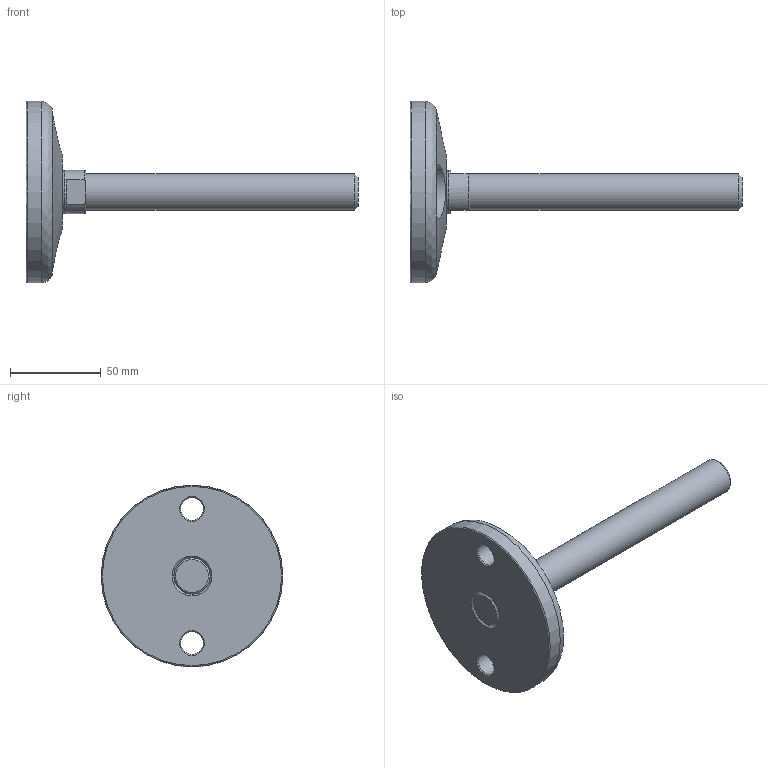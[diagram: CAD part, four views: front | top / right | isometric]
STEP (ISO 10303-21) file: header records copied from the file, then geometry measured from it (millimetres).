
FILE_DESCRIPTION(('STEP AP203'),'2;1');
FILE_NAME('12192.stp','2016-11-25T11:22:48',(''),(''),'2008.1.107','THINKDESIGN','');
FILE_SCHEMA(('CONFIG_CONTROL_DESIGN'));
Length unit declared in the file: millimetre
Bounding box: 183 x 100 x 100 mm (x, y, z)
Volume: 177639.6 mm3; surface area: 34640.3 mm2
Topology: 4 solids, 4 shells, 37 faces, 96 edges, 67 vertices
Faces by surface type: plane 14, bspline 14, cylinder 9
Full cylindrical faces by diameter (mm): 12.5 x2, 20 x3, 24 x1, 100 x1
Entity records: 2856 total; most frequent: CARTESIAN_POINT 1829, DIRECTION 200, ORIENTED_EDGE 192, EDGE_CURVE 96, AXIS2_PLACEMENT_3D 88, VERTEX_POINT 67, CIRCLE 65, EDGE_LOOP 43
